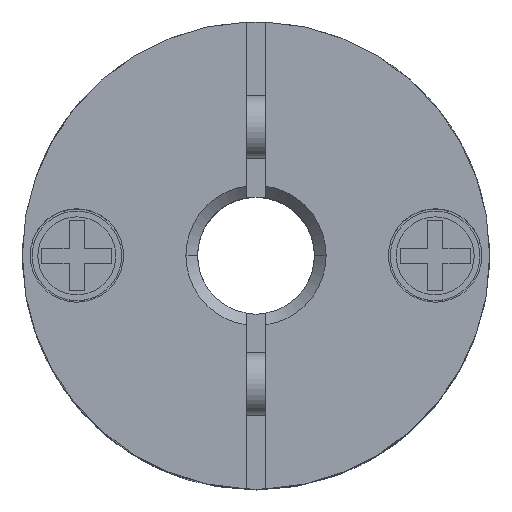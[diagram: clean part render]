
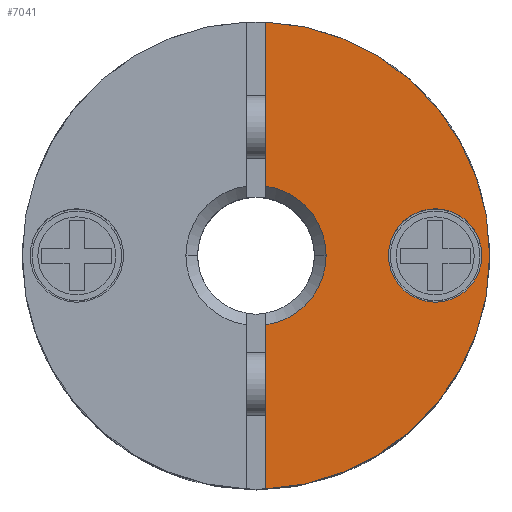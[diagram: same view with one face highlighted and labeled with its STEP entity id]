
A CAD part, top view. The second image highlights one B-rep face of the part: STEP entity #7041.
In plain terms, the highlighted planar face has unit normal (0, 0, 1).
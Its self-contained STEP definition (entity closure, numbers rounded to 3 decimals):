
#893=CARTESIAN_POINT('',(6.0,0.,6.2));
#894=VERTEX_POINT('',#893);
#901=CARTESIAN_POINT('',(0.25,-5.995,6.2));
#902=VERTEX_POINT('',#901);
#903=CARTESIAN_POINT('',(0.,0.,6.2));
#904=DIRECTION('',(0.0,0.0,-1.0));
#905=DIRECTION('',(-1.0,0.0,0.0));
#906=AXIS2_PLACEMENT_3D('',#903,#904,#905);
#907=CIRCLE('',#906,6.0);
#908=EDGE_CURVE('',#894,#902,#907,.T.);
#1104=CARTESIAN_POINT('',(1.8,0.,6.2));
#1105=VERTEX_POINT('',#1104);
#1113=CARTESIAN_POINT('',(0.25,-1.783,6.2));
#1114=VERTEX_POINT('',#1113);
#1128=CARTESIAN_POINT('',(0.,0.,6.2));
#1129=DIRECTION('',(0.0,0.0,1.0));
#1130=DIRECTION('',(1.0,0.0,0.0));
#1131=AXIS2_PLACEMENT_3D('',#1128,#1129,#1130);
#1132=CIRCLE('',#1131,1.8);
#1133=EDGE_CURVE('',#1114,#1105,#1132,.T.);
#1185=CARTESIAN_POINT('',(3.4,0.,6.2));
#1186=VERTEX_POINT('',#1185);
#1195=CARTESIAN_POINT('',(5.8,0.,6.2));
#1196=VERTEX_POINT('',#1195);
#1197=CARTESIAN_POINT('',(4.6,0.,6.2));
#1198=DIRECTION('',(0.0,0.0,-1.0));
#1199=DIRECTION('',(-1.0,0.0,0.0));
#1200=AXIS2_PLACEMENT_3D('',#1197,#1198,#1199);
#1201=CIRCLE('',#1200,1.2);
#1202=EDGE_CURVE('',#1196,#1186,#1201,.T.);
#6710=CARTESIAN_POINT('',(4.6,0.,6.2));
#6711=DIRECTION('',(0.0,0.0,-1.0));
#6712=DIRECTION('',(-1.0,0.0,0.0));
#6713=AXIS2_PLACEMENT_3D('',#6710,#6711,#6712);
#6714=CIRCLE('',#6713,1.2);
#6715=EDGE_CURVE('',#1186,#1196,#6714,.T.);
#6777=CARTESIAN_POINT('',(0.25,-1.783,6.2));
#6778=DIRECTION('',(0.0,-1.0,0.0));
#6779=VECTOR('',#6778,4.212);
#6780=LINE('',#6777,#6779);
#6781=EDGE_CURVE('',#1114,#902,#6780,.T.);
#6874=CARTESIAN_POINT('',(0.25,1.783,6.2));
#6875=VERTEX_POINT('',#6874);
#6889=CARTESIAN_POINT('',(0.25,5.995,6.2));
#6890=VERTEX_POINT('',#6889);
#6891=CARTESIAN_POINT('',(0.25,5.995,6.2));
#6892=DIRECTION('',(0.0,-1.0,0.0));
#6893=VECTOR('',#6892,4.212);
#6894=LINE('',#6891,#6893);
#6895=EDGE_CURVE('',#6890,#6875,#6894,.T.);
#7012=CARTESIAN_POINT('',(-0.545,0.,6.2));
#7013=DIRECTION('',(0.0,0.0,1.0));
#7014=DIRECTION('',(-1.0,0.0,0.0));
#7015=AXIS2_PLACEMENT_3D('',#7012,#7013,#7014);
#7016=PLANE('',#7015);
#7017=ORIENTED_EDGE('',*,*,#6895,.T.);
#7018=CARTESIAN_POINT('',(0.,0.,6.2));
#7019=DIRECTION('',(0.0,0.0,1.0));
#7020=DIRECTION('',(1.0,0.0,0.0));
#7021=AXIS2_PLACEMENT_3D('',#7018,#7019,#7020);
#7022=CIRCLE('',#7021,1.8);
#7023=EDGE_CURVE('',#1105,#6875,#7022,.T.);
#7024=ORIENTED_EDGE('',*,*,#7023,.F.);
#7025=ORIENTED_EDGE('',*,*,#1133,.F.);
#7026=ORIENTED_EDGE('',*,*,#6781,.T.);
#7027=ORIENTED_EDGE('',*,*,#908,.F.);
#7028=CARTESIAN_POINT('',(0.,0.,6.2));
#7029=DIRECTION('',(0.0,0.0,-1.0));
#7030=DIRECTION('',(-1.0,0.0,0.0));
#7031=AXIS2_PLACEMENT_3D('',#7028,#7029,#7030);
#7032=CIRCLE('',#7031,6.0);
#7033=EDGE_CURVE('',#6890,#894,#7032,.T.);
#7034=ORIENTED_EDGE('',*,*,#7033,.F.);
#7035=EDGE_LOOP('',(#7017,#7024,#7025,#7026,#7027,#7034));
#7036=FACE_OUTER_BOUND('',#7035,.T.);
#7037=ORIENTED_EDGE('',*,*,#6715,.T.);
#7038=ORIENTED_EDGE('',*,*,#1202,.T.);
#7039=EDGE_LOOP('',(#7037,#7038));
#7040=FACE_BOUND('',#7039,.T.);
#7041=ADVANCED_FACE('',(#7036,#7040),#7016,.T.);
